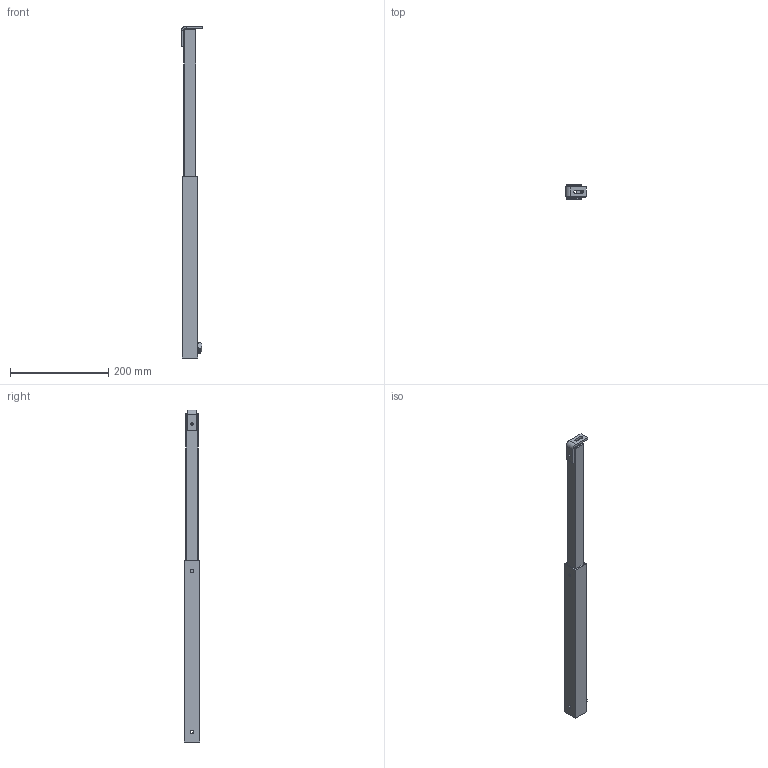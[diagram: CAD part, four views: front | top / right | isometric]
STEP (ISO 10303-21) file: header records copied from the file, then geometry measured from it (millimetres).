
FILE_DESCRIPTION((''),'2;1');
FILE_NAME('27M400-04_ASM','2023-02-27T',('jenni.wallner'),(''),'PRO/ENGINEER BY PARAMETRIC TECHNOLOGY CORPORATION, 2012420','PRO/ENGINEER BY PARAMETRIC TECHNOLOGY CORPORATION, 2012420','');
FILE_SCHEMA(('CONFIG_CONTROL_DESIGN'));
Length unit declared in the file: inch
Products named in the file (6): 233107; 639971M_CAE; 233202_CAE; 233108M; ASM0001_ASM; 27M400-04_ASM
Assembly tree (6 placements, depth 3):
  27M400-04_ASM
    ASM0001_ASM
      233107
      639971M_CAE  x2
      233202_CAE
      233108M
Bounding box: 42.42 x 31.75 x 674.34 mm (x, y, z)
Volume: 221626.3 mm3; surface area: 149885.9 mm2
Topology: 5 solids, 5 shells, 112 faces, 308 edges, 206 vertices
Faces by surface type: plane 66, cylinder 44, cone 2
Entity records: 2945 total; most frequent: DIRECTION 512, CARTESIAN_POINT 489, ORIENTED_EDGE 464, EDGE_CURVE 232, AXIS2_PLACEMENT_3D 177, VECTOR 158, LINE 158, VERTEX_POINT 154
